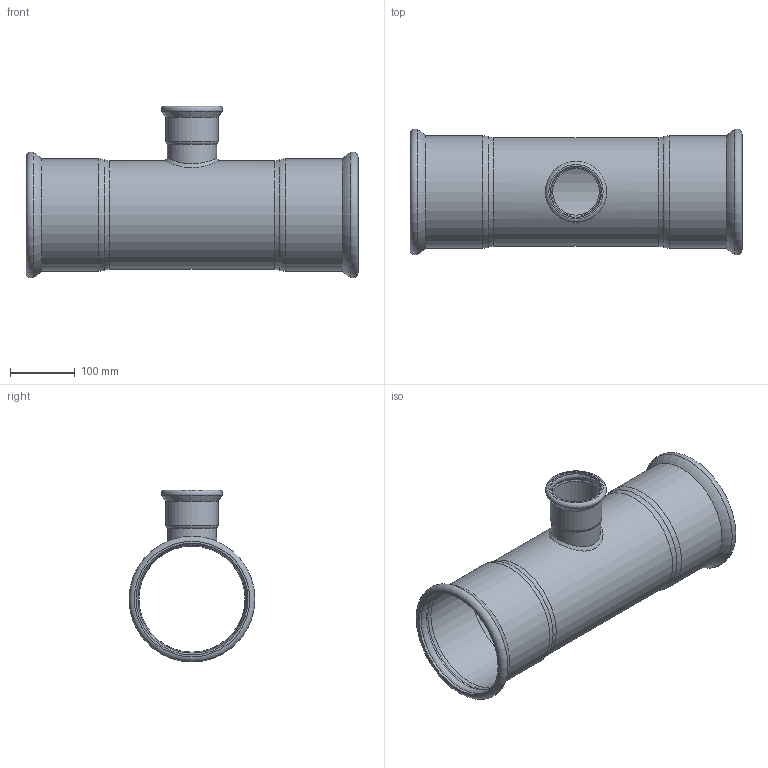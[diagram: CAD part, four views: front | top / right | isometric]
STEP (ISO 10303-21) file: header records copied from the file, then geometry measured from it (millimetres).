
FILE_DESCRIPTION(/* description */ (''),/* implementation_level */ '2;1');
FILE_NAME(/* name */ 'R:\Disegni3D_Area_Manager\Inoxpres.step\192_INOXPRES\192168076_Inoxpres.stp',/* time_stamp */ '2022-10-12T11:09:21+02:00',/* author */ ('Vault'),/* organization */ ('Raccorderie metalliche s.p.a. '),/* preprocessor_version */ 'ST-DEVELOPER v18.1',/* originating_system */ 'Autodesk Inventor 2020',/* authorisation */ 'Raccorderie metalliche s.p.a. ');
FILE_SCHEMA (('AUTOMOTIVE_DESIGN { 1 0 10303 214 3 1 1 }'));
Length unit declared in the file: millimetre
Products named in the file (1): 192168076_Inoxpres
Bounding box: 514 x 194.77 x 266.2 mm (x, y, z)
Volume: 789124.8 mm3; surface area: 600661.8 mm2
Topology: 1 solids, 1 shells, 45 faces, 155 edges, 112 vertices
Faces by surface type: torus 21, cylinder 16, bspline 4, cone 2, plane 2
Full cylindrical faces by diameter (mm): 72.1 x1, 76.1 x1, 76.7 x1, 79 x2, 80.7 x1, 164.3 x1, 168.3 x1, 170 x2, 173 x4, 174 x2
Entity records: 2639 total; most frequent: CARTESIAN_POINT 1138, DIRECTION 351, ORIENTED_EDGE 310, AXIS2_PLACEMENT_3D 165, EDGE_CURVE 155, CIRCLE 123, VERTEX_POINT 112, EDGE_LOOP 49
